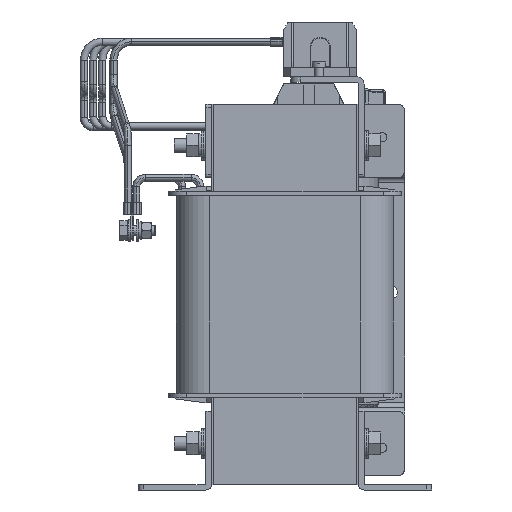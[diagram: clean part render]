
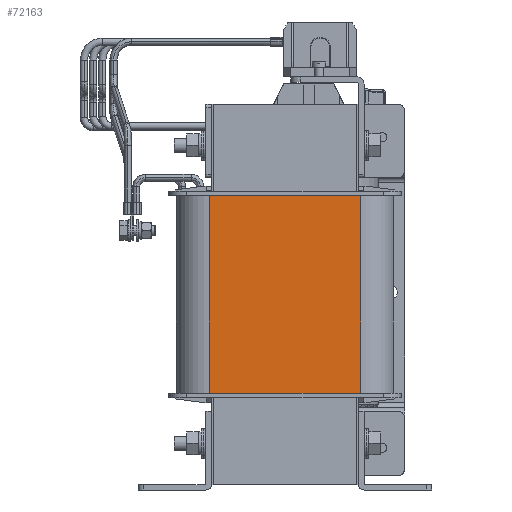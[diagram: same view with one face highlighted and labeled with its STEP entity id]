
A CAD part, left-side view. The second image highlights one B-rep face of the part: STEP entity #72163.
In plain terms, the highlighted planar face has unit normal (-1, 0, 0).
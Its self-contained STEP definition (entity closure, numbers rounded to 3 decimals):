
#4171 = LINE ( 'NONE', #44496, #20925 ) ;
#14357 = VECTOR ( 'NONE', #132774, 1000. ) ;
#16813 = CARTESIAN_POINT ( 'NONE',  ( -131.5, 80.25, 161.1 ) ) ;
#19824 = DIRECTION ( 'NONE',  ( -1., 0., 0. ) ) ;
#20925 = VECTOR ( 'NONE', #56294, 1000. ) ;
#25131 = EDGE_CURVE ( 'NONE', #61742, #63180, #74879, .T. ) ;
#26535 = LINE ( 'NONE', #16813, #14357 ) ;
#33070 = EDGE_LOOP ( 'NONE', ( #131755, #52026, #69072, #126592 ) ) ;
#38107 = CARTESIAN_POINT ( 'NONE',  ( -131.5, 121.6, 52.9 ) ) ;
#44496 = CARTESIAN_POINT ( 'NONE',  ( -131.5, 38.9, 52.9 ) ) ;
#51058 = DIRECTION ( 'NONE',  ( 0., 0., 1. ) ) ;
#52026 = ORIENTED_EDGE ( 'NONE', *, *, #93150, .T. ) ;
#52479 = VECTOR ( 'NONE', #105984, 1000. ) ;
#56294 = DIRECTION ( 'NONE',  ( 0., 0., -1. ) ) ;
#61510 = PLANE ( 'NONE',  #121262 ) ;
#61742 = VERTEX_POINT ( 'NONE', #38107 ) ;
#63180 = VERTEX_POINT ( 'NONE', #81412 ) ;
#65103 = DIRECTION ( 'NONE',  ( 0., -1., 0. ) ) ;
#69072 = ORIENTED_EDGE ( 'NONE', *, *, #25131, .T. ) ;
#72163 = ADVANCED_FACE ( 'NONE', ( #83067 ), #61510, .T. ) ;
#73307 = CARTESIAN_POINT ( 'NONE',  ( -131.5, 38.9, 52.9 ) ) ;
#74031 = LINE ( 'NONE', #96197, #52479 ) ;
#74879 = LINE ( 'NONE', #98404, #81471 ) ;
#77525 = CARTESIAN_POINT ( 'NONE',  ( -131.5, 121.6, 161.1 ) ) ;
#81412 = CARTESIAN_POINT ( 'NONE',  ( -131.5, 38.9, 52.9 ) ) ;
#81471 = VECTOR ( 'NONE', #65103, 1000. ) ;
#83067 = FACE_OUTER_BOUND ( 'NONE', #33070, .T. ) ;
#86538 = VERTEX_POINT ( 'NONE', #111977 ) ;
#93150 = EDGE_CURVE ( 'NONE', #96221, #61742, #74031, .T. ) ;
#96197 = CARTESIAN_POINT ( 'NONE',  ( -131.5, 121.6, 52.9 ) ) ;
#96221 = VERTEX_POINT ( 'NONE', #77525 ) ;
#98404 = CARTESIAN_POINT ( 'NONE',  ( -131.5, 80.25, 52.9 ) ) ;
#105984 = DIRECTION ( 'NONE',  ( 0., 0., -1. ) ) ;
#111977 = CARTESIAN_POINT ( 'NONE',  ( -131.5, 38.9, 161.1 ) ) ;
#121262 = AXIS2_PLACEMENT_3D ( 'NONE', #73307, #19824, #51058 ) ;
#124241 = EDGE_CURVE ( 'NONE', #96221, #86538, #26535, .T. ) ;
#126592 = ORIENTED_EDGE ( 'NONE', *, *, #131946, .F. ) ;
#131755 = ORIENTED_EDGE ( 'NONE', *, *, #124241, .F. ) ;
#131946 = EDGE_CURVE ( 'NONE', #86538, #63180, #4171, .T. ) ;
#132774 = DIRECTION ( 'NONE',  ( 0., -1., 0. ) ) ;
